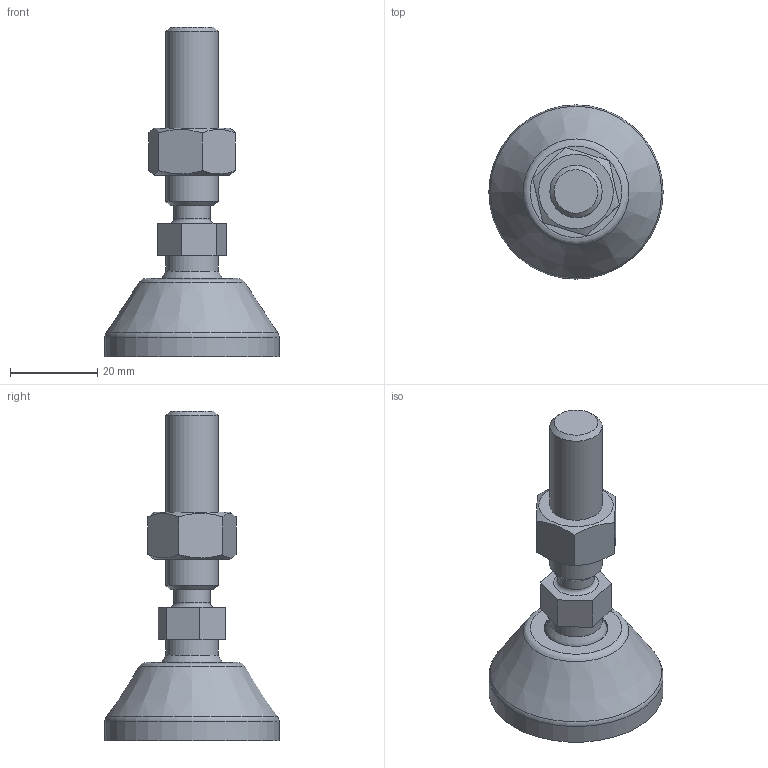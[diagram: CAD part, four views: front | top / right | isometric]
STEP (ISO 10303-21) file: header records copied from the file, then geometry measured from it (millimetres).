
FILE_DESCRIPTION(('STEP AP203'), '1');
FILE_NAME('栖闉罻', '', ('UNSPECIFIED'), ('UNSPECIFIED'), 'C3D Converter', 'C3D Toolkit', '');
FILE_SCHEMA(('CONFIG_CONTROL_DESIGN'));
Length unit declared in the file: millimetre
Products named in the file (4): A00015.1040; A00020.112045
Assembly tree (3 placements, depth 3):
  (unnamed)
    A00015.1040
    A00020.112045
      (unnamed)
Bounding box: 40 x 40 x 75.7 mm (x, y, z)
Volume: 19759.3 mm3; surface area: 10471.4 mm2
Topology: 3 solids, 3 shells, 137 faces, 381 edges, 255 vertices
Faces by surface type: plane 79, cylinder 26, torus 21, cone 9, sphere 2
Full cylindrical faces by diameter (mm): 8.3 x1, 10.647 x1, 12 x2, 14.3 x1, 15 x2, 15.5 x1, 32 x1, 40 x1
Entity records: 7713 total; most frequent: CARTESIAN_POINT 2985, DIRECTION 714, ORIENTED_EDGE 708, EDGE_CURVE 354, AXIS2_PLACEMENT_3D 281, VERTEX_POINT 254, EDGE_LOOP 170, LINE 152
